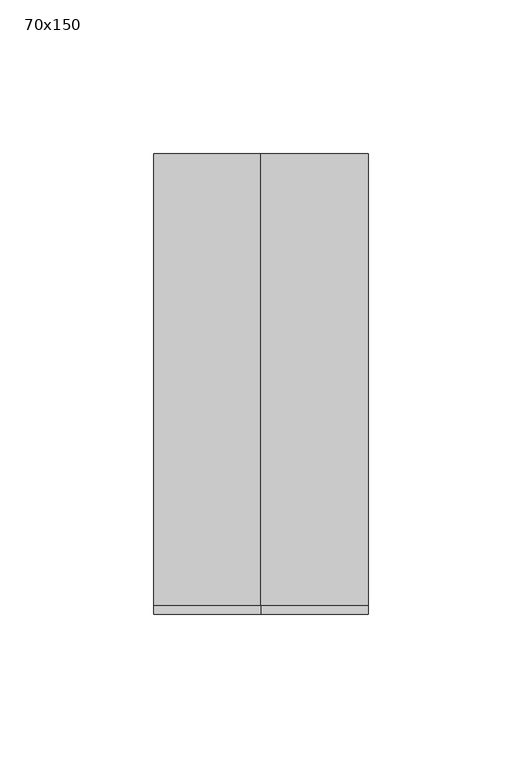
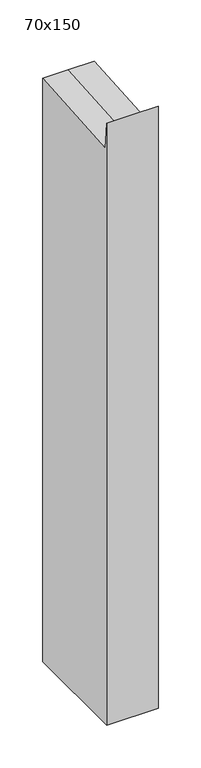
"""IFC4 building model written with IfcOpenShell, lengths in millimetres: member geometry, 長方形のマリオン : 70x150."""

from ifc_helpers import new_model, si_unit, origin, place, context, project, spatial, faceted_brep, source, transform, mapped, element, save


def member_70x150_afe49929(model_context):
    return source(origin(), model_context, "Body", "Brep", [
        faceted_brep([(35.0, 75.0, -830.0), (35.0, -75.0, -830.0), (-35.0, -75.0, -830.0), (-35.0, 75.0, -830.0), (-35.0, 75.0, 5.6402638), (0.0, 75.0, 5.6402638), (35.0, 75.0, 5.6402638), (-35.0, -75.0, 32.1328391), (-35.0, -72.1089919, -5.623802), (35.0, -75.0, 32.1328391), (0.0, -75.0, 32.1328391), (35.0, -72.1089919, -5.623802), (0.0, -72.1089919, -5.623802)], [[[0, 1, 2, 3]], [[4, 5, 6, 0, 3]], [[7, 8, 4, 3, 2]], [[9, 10, 7, 2, 1]], [[6, 11, 9, 1, 0]], [[6, 5, 12, 11]], [[5, 4, 8, 12]], [[8, 7, 10, 12]], [[10, 9, 11, 12]]]),
    ])


if __name__ == "__main__":
    model = new_model("IFC4")
    model_context = context("Model", 3, world=origin())
    ifc_project = project(units=[si_unit("LENGTHUNIT", "METRE", prefix="MILLI")], contexts=[model_context])
    site = spatial("IfcSite", under=ifc_project)
    building = spatial("IfcBuilding", under=site)
    placement = place(None, origin())
    member_70x150_shape = member_70x150_afe49929(model_context)
    element("IfcMember", 1, ObjectType="長方形のマリオン : 70x150", at=placement, inside=building, context=model_context, shape_type="MappedRepresentation", body=[
        mapped(member_70x150_shape, transform((0.0, 0.0, 0.0), x_axis=(1.0, 0.0, 0.0), y_axis=(0.0, 1.0, 0.0), z_axis=(0.0, 0.0, 1.0))),
    ])
    save(model, "model.ifc")
